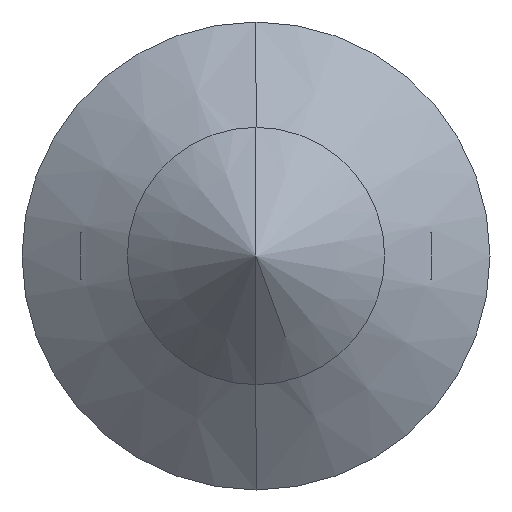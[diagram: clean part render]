
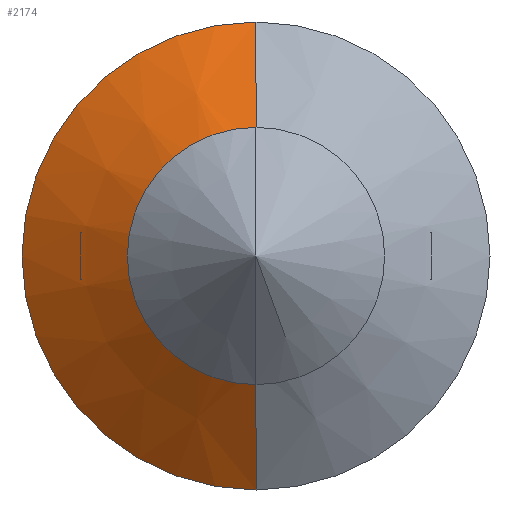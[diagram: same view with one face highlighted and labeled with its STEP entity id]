
A CAD part, left-side view. The second image highlights one B-rep face of the part: STEP entity #2174.
In plain terms, the highlighted conical face has half-angle 54.462 degrees and reference radius 2 mm.
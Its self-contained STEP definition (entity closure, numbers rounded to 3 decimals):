
#34 = CARTESIAN_POINT ( 'NONE',  ( -0.845, 0., -2. ) ) ;
#127 = LINE ( 'NONE', #469, #2670 ) ;
#229 = AXIS2_PLACEMENT_3D ( 'NONE', #3874, #1870, #4214 ) ;
#299 = CARTESIAN_POINT ( 'NONE',  ( -1.595, 0., 0.95 ) ) ;
#448 = DIRECTION ( 'NONE',  ( -1., 0., 0. ) ) ;
#469 = CARTESIAN_POINT ( 'NONE',  ( -0.845, 0., -2. ) ) ;
#831 = ORIENTED_EDGE ( 'NONE', *, *, #1394, .F. ) ;
#1268 = DIRECTION ( 'NONE',  ( 0., 0., -1. ) ) ;
#1394 = EDGE_CURVE ( 'NONE', #1942, #1805, #127, .T. ) ;
#1409 = DIRECTION ( 'NONE',  ( 0.581, 0., 0.814 ) ) ;
#1472 = VECTOR ( 'NONE', #1409, 1000. ) ;
#1501 = CIRCLE ( 'NONE', #3856, 2. ) ;
#1805 = VERTEX_POINT ( 'NONE', #34 ) ;
#1844 = CARTESIAN_POINT ( 'NONE',  ( -1.595, 0., -0.95 ) ) ;
#1870 = DIRECTION ( 'NONE',  ( -1., 0., 0. ) ) ;
#1942 = VERTEX_POINT ( 'NONE', #1844 ) ;
#1963 = ORIENTED_EDGE ( 'NONE', *, *, #2782, .T. ) ;
#2001 = EDGE_CURVE ( 'NONE', #3315, #1942, #3161, .T. ) ;
#2084 = ORIENTED_EDGE ( 'NONE', *, *, #2001, .F. ) ;
#2174 = ADVANCED_FACE ( 'NONE', ( #4148 ), #2258, .T. ) ;
#2228 = AXIS2_PLACEMENT_3D ( 'NONE', #4273, #2278, #1268 ) ;
#2258 = CONICAL_SURFACE ( 'NONE', #2228, 2., 0.951 ) ;
#2278 = DIRECTION ( 'NONE',  ( 1., 0., 0. ) ) ;
#2436 = CARTESIAN_POINT ( 'NONE',  ( -0.845, 0., 0. ) ) ;
#2463 = VERTEX_POINT ( 'NONE', #4076 ) ;
#2670 = VECTOR ( 'NONE', #3443, 1000. ) ;
#2771 = DIRECTION ( 'NONE',  ( 0., 0., 1. ) ) ;
#2782 = EDGE_CURVE ( 'NONE', #2463, #1805, #1501, .T. ) ;
#3161 = CIRCLE ( 'NONE', #229, 0.95 ) ;
#3315 = VERTEX_POINT ( 'NONE', #299 ) ;
#3419 = CARTESIAN_POINT ( 'NONE',  ( -0.845, 0., 2. ) ) ;
#3443 = DIRECTION ( 'NONE',  ( 0.581, 0., -0.814 ) ) ;
#3534 = EDGE_CURVE ( 'NONE', #3315, #2463, #4239, .T. ) ;
#3856 = AXIS2_PLACEMENT_3D ( 'NONE', #2436, #448, #2771 ) ;
#3874 = CARTESIAN_POINT ( 'NONE',  ( -1.595, 0., 0. ) ) ;
#3936 = ORIENTED_EDGE ( 'NONE', *, *, #3534, .T. ) ;
#4074 = EDGE_LOOP ( 'NONE', ( #2084, #3936, #1963, #831 ) ) ;
#4076 = CARTESIAN_POINT ( 'NONE',  ( -0.845, 0., 2. ) ) ;
#4148 = FACE_OUTER_BOUND ( 'NONE', #4074, .T. ) ;
#4214 = DIRECTION ( 'NONE',  ( 0., 0., 1. ) ) ;
#4239 = LINE ( 'NONE', #3419, #1472 ) ;
#4273 = CARTESIAN_POINT ( 'NONE',  ( -0.845, 0., 0. ) ) ;
